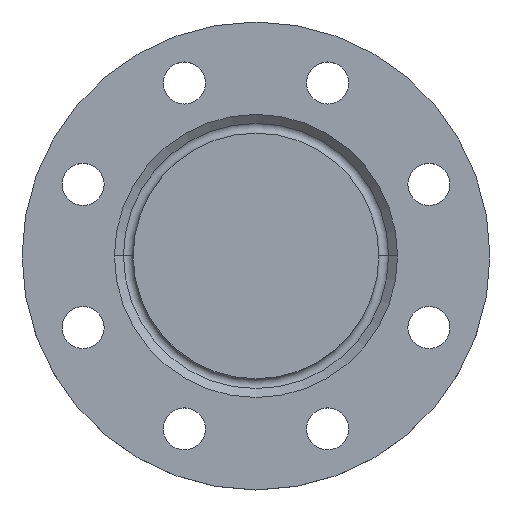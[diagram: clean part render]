
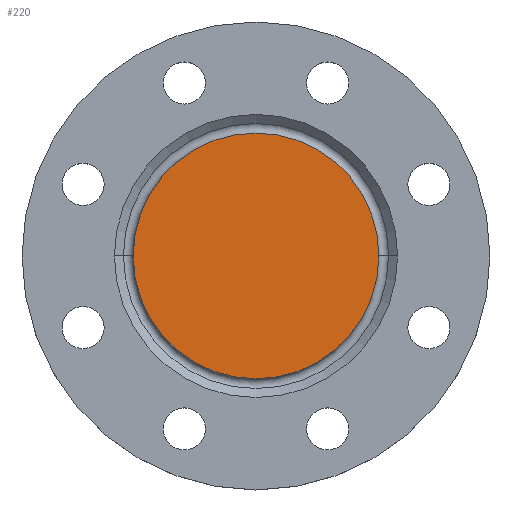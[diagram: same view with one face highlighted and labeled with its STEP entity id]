
A CAD part, top view. The second image highlights one B-rep face of the part: STEP entity #220.
In plain terms, the highlighted planar face has unit normal (0, 0, 1).
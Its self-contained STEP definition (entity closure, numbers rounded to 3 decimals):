
#81 = EDGE_CURVE ( 'NONE', #616, #623, #966, .T. ) ;
#93 = AXIS2_PLACEMENT_3D ( 'NONE', #144, #150, #156 ) ;
#144 = CARTESIAN_POINT ( 'NONE',  ( 0., 0., 0. ) ) ;
#150 = DIRECTION ( 'NONE',  ( 0., 0., -1. ) ) ;
#156 = DIRECTION ( 'NONE',  ( -1., 0., 0. ) ) ;
#201 = CARTESIAN_POINT ( 'NONE',  ( 52.5, 0., 0. ) ) ;
#219 = CARTESIAN_POINT ( 'NONE',  ( -52.5, 0., 0. ) ) ;
#220 = ADVANCED_FACE ( 'NONE', ( #507 ), #519, .T. ) ;
#264 = EDGE_CURVE ( 'NONE', #623, #616, #428, .T. ) ;
#407 = AXIS2_PLACEMENT_3D ( 'NONE', #471, #547, #560 ) ;
#428 = CIRCLE ( 'NONE', #407, 52.5 ) ;
#471 = CARTESIAN_POINT ( 'NONE',  ( 0., 0., 0. ) ) ;
#507 = FACE_OUTER_BOUND ( 'NONE', #949, .T. ) ;
#519 = PLANE ( 'NONE',  #899 ) ;
#521 = CARTESIAN_POINT ( 'NONE',  ( 0., 0., 0. ) ) ;
#525 = DIRECTION ( 'NONE',  ( 1., 0., 0. ) ) ;
#533 = DIRECTION ( 'NONE',  ( 0., 0., 1. ) ) ;
#547 = DIRECTION ( 'NONE',  ( 0., 0., -1. ) ) ;
#560 = DIRECTION ( 'NONE',  ( -1., 0., 0. ) ) ;
#616 = VERTEX_POINT ( 'NONE', #219 ) ;
#623 = VERTEX_POINT ( 'NONE', #201 ) ;
#843 = ORIENTED_EDGE ( 'NONE', *, *, #81, .F. ) ;
#844 = ORIENTED_EDGE ( 'NONE', *, *, #264, .F. ) ;
#899 = AXIS2_PLACEMENT_3D ( 'NONE', #521, #533, #525 ) ;
#949 = EDGE_LOOP ( 'NONE', ( #843, #844 ) ) ;
#966 = CIRCLE ( 'NONE', #93, 52.5 ) ;
